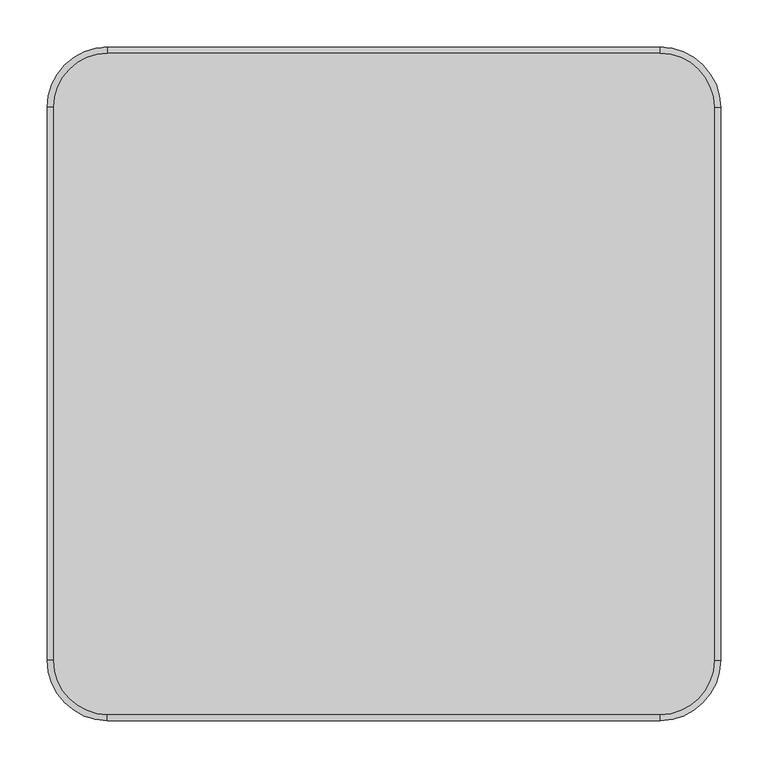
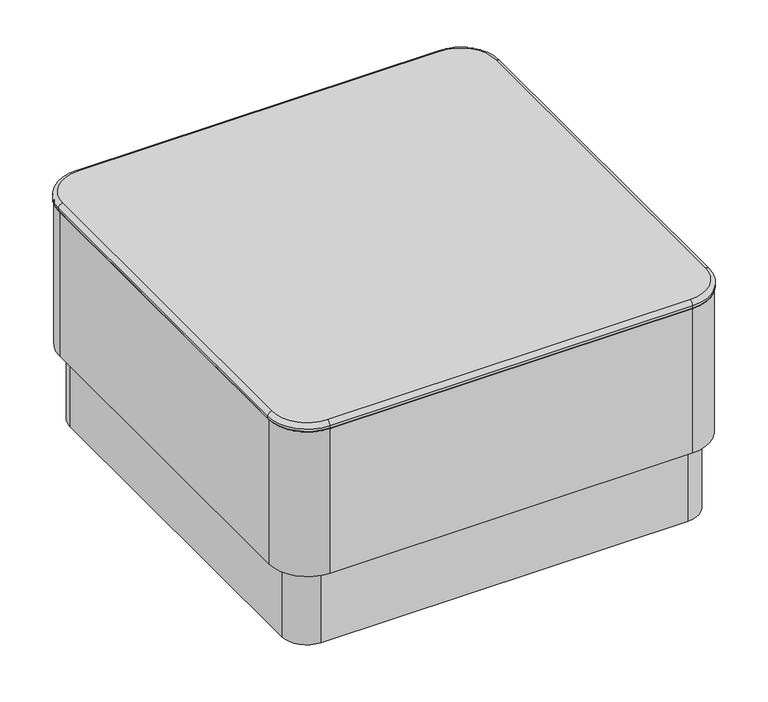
"""IFC4 building model written with IfcOpenShell, lengths in millimetres: furniture geometry, Stance_HC-Rosetta-Square_Table : RM-SQ-BHP."""

from ifc_helpers import new_model, si_unit, point, frame, frame_2d, origin, origin_with_axes, place, context, project, spatial, polyline, circle_curve, ellipse_curve, trimmed, segment, composite_curve, outline, extrude, source, transform, mapped, element, save
from ifc_brep_helpers import plane_surface, cylinder_surface, revolved_surface, advanced_brep


def furniture_0f2db980(model_context):
    return source(origin(), model_context, "Body", "SolidModel", [
        advanced_brep(
        [(711.2, -63.5, 387.35), (647.7, 0.0, 387.35), (647.7, -6.35, 393.7), (704.85, -63.5, 393.7), (711.2, -63.5, 383.2974494), (647.7, 0.0, 383.2974494), (709.6125, -63.5, 381.7099494), (647.7, -1.5875, 381.7099494), (704.85, -647.6999758, 393.7), (711.2, -647.6999758, 387.35), (711.2, -647.6999758, 383.2974494), (709.6125, -647.6999758, 381.7099494), (647.7, -704.8499758, 393.7), (647.7, -711.1999758, 387.35), (647.7, -711.1999758, 383.2974494), (647.7, -709.6124758, 381.7099494), (63.5, -704.8499758, 393.7), (63.5, -711.1999758, 387.35), (63.5, -711.1999758, 383.2974494), (63.5, -709.6124758, 381.7099494), (6.35, -647.6999758, 393.7), (0.0, -647.6999758, 387.35), (0.0, -647.6999758, 383.2974494), (1.5875, -647.6999758, 381.7099494), (6.35, -63.5, 393.7), (0.0, -63.5, 387.35), (0.0, -63.5, 383.2974494), (1.5875, -63.5, 381.7099494), (63.5, -6.35, 393.7), (63.5, 0.0, 387.35), (63.5, 0.0, 383.2974494), (63.5, -1.5875, 381.7099494)],
        [
            (0, 1, circle_curve(frame((647.7, -63.5, 387.35), z_axis=(0.0, 0.0, 1.0), x_axis=(0.0, 1.0, 0.0)), 63.5)),
            (1, 2, circle_curve(frame((647.7, -6.35, 387.35), z_axis=(1.0, 0.0, 0.0), x_axis=(0.0, 1.0, 0.0)), 6.35)),
            (2, 3, circle_curve(frame((647.7, -63.5, 393.7), z_axis=(0.0, 0.0, -1.0), x_axis=(0.0, 1.0, 0.0)), 57.15)),
            (3, 0, circle_curve(frame((704.85, -63.5, 387.35), z_axis=(0.0, 1.0, 0.0), x_axis=(1.0, 0.0, 0.0)), 6.35)),
            (0, 4),
            (4, 5, circle_curve(frame((647.7, -63.5, 383.2974494), z_axis=(0.0, 0.0, 1.0), x_axis=(0.0, 1.0, 0.0)), 63.5)),
            (5, 1),
            (4, 6, circle_curve(frame((709.6125, -63.5, 383.2974494), z_axis=(0.0, 1.0, 0.0), x_axis=(1.0, 0.0, 0.0)), 1.5875)),
            (6, 7, circle_curve(frame((647.7, -63.5, 381.7099494), z_axis=(0.0, 0.0, 1.0), x_axis=(0.0, 1.0, 0.0)), 61.9125)),
            (7, 5, circle_curve(frame((647.7, -1.5875, 383.2974494), z_axis=(1.0, 0.0, 0.0), x_axis=(0.0, 1.0, 0.0)), 1.5875)),
            (3, 8),
            (8, 9, circle_curve(frame((704.85, -647.6999758, 387.35), z_axis=(0.0, 1.0, 0.0), x_axis=(1.0, 0.0, 0.0)), 6.35)),
            (9, 0),
            (9, 10),
            (10, 4),
            (10, 11, circle_curve(frame((709.6125, -647.6999758, 383.2974494), z_axis=(0.0, 1.0, 0.0), x_axis=(1.0, 0.0, 0.0)), 1.5875)),
            (11, 6),
            (8, 12, circle_curve(frame((647.7, -647.6999758, 393.7), z_axis=(0.0, 0.0, -1.0), x_axis=(1.0, 0.0, 0.0)), 57.15)),
            (12, 13, circle_curve(frame((647.7, -704.8499758, 387.35), z_axis=(1.0, 0.0, 0.0), x_axis=(0.0, -1.0, 0.0)), 6.35)),
            (13, 9, circle_curve(frame((647.7, -647.6999758, 387.35), z_axis=(0.0, 0.0, 1.0), x_axis=(1.0, 0.0, 0.0)), 63.5)),
            (13, 14),
            (14, 10, circle_curve(frame((647.7, -647.6999758, 383.2974494), z_axis=(0.0, 0.0, 1.0), x_axis=(1.0, 0.0, 0.0)), 63.5)),
            (14, 15, circle_curve(frame((647.7, -709.6124758, 383.2974494), z_axis=(1.0, 0.0, 0.0), x_axis=(0.0, -1.0, 0.0)), 1.5875)),
            (15, 11, circle_curve(frame((647.7, -647.6999758, 381.7099494), z_axis=(0.0, 0.0, 1.0), x_axis=(1.0, 0.0, 0.0)), 61.9125)),
            (12, 16),
            (16, 17, circle_curve(frame((63.5, -704.8499758, 387.35), z_axis=(1.0, 0.0, 0.0), x_axis=(0.0, -1.0, 0.0)), 6.35)),
            (17, 13),
            (17, 18),
            (18, 14),
            (18, 19, circle_curve(frame((63.5, -709.6124758, 383.2974494), z_axis=(1.0, 0.0, 0.0), x_axis=(0.0, -1.0, 0.0)), 1.5875)),
            (19, 15),
            (16, 20, circle_curve(frame((63.5, -647.6999758, 393.7), z_axis=(0.0, 0.0, -1.0), x_axis=(0.0, -1.0, 0.0)), 57.15)),
            (20, 21, circle_curve(frame((6.35, -647.6999758, 387.35), z_axis=(0.0, -1.0, 0.0), x_axis=(-1.0, 0.0, 0.0)), 6.35)),
            (21, 17, circle_curve(frame((63.5, -647.6999758, 387.35), z_axis=(0.0, 0.0, 1.0), x_axis=(0.0, -1.0, 0.0)), 63.5)),
            (21, 22),
            (22, 18, circle_curve(frame((63.5, -647.6999758, 383.2974494), z_axis=(0.0, 0.0, 1.0), x_axis=(0.0, -1.0, 0.0)), 63.5)),
            (22, 23, circle_curve(frame((1.5875, -647.6999758, 383.2974494), z_axis=(0.0, -1.0, 0.0), x_axis=(-1.0, 0.0, 0.0)), 1.5875)),
            (23, 19, circle_curve(frame((63.5, -647.6999758, 381.7099494), z_axis=(0.0, 0.0, 1.0), x_axis=(0.0, -1.0, 0.0)), 61.9125)),
            (20, 24),
            (24, 25, circle_curve(frame((6.35, -63.5, 387.35), z_axis=(0.0, -1.0, 0.0), x_axis=(-1.0, 0.0, 0.0)), 6.35)),
            (25, 21),
            (25, 26),
            (26, 22),
            (26, 27, circle_curve(frame((1.5875, -63.5, 383.2974494), z_axis=(0.0, -1.0, 0.0), x_axis=(-1.0, 0.0, 0.0)), 1.5875)),
            (27, 23),
            (24, 28, circle_curve(frame((63.5, -63.5, 393.7), z_axis=(0.0, 0.0, -1.0), x_axis=(-1.0, 0.0, 0.0)), 57.15)),
            (28, 29, circle_curve(frame((63.5, -6.35, 387.35), z_axis=(-1.0, 0.0, 0.0), x_axis=(0.0, 1.0, 0.0)), 6.35)),
            (29, 25, circle_curve(frame((63.5, -63.5, 387.35), z_axis=(0.0, 0.0, 1.0), x_axis=(-1.0, 0.0, 0.0)), 63.5)),
            (29, 30),
            (30, 26, circle_curve(frame((63.5, -63.5, 383.2974494), z_axis=(0.0, 0.0, 1.0), x_axis=(-1.0, 0.0, 0.0)), 63.5)),
            (30, 31, circle_curve(frame((63.5, -1.5875, 383.2974494), z_axis=(-1.0, 0.0, 0.0), x_axis=(0.0, 1.0, 0.0)), 1.5875)),
            (31, 27, circle_curve(frame((63.5, -63.5, 381.7099494), z_axis=(0.0, 0.0, 1.0), x_axis=(-1.0, 0.0, 0.0)), 61.9125)),
            (2, 28),
            (1, 29),
            (5, 30),
            (7, 31),
        ],
        [
            revolved_surface(trimmed(ellipse_curve(frame((647.7, -6.35, 387.35), z_axis=(-1.0, 0.0, 0.0), x_axis=(0.0, 1.0, 0.0)), 6.35, 6.35), [point((647.7, -6.35, 393.7))], [point((647.7, 0.0, 387.35))], True, "CARTESIAN"), (647.7, -63.5, 618.9648354), (0.0, 0.0, -1.0)),
            cylinder_surface(frame((647.7, -63.5, 618.9648354), z_axis=(0.0, 0.0, -1.0), x_axis=(0.0, 1.0, 0.0)), 63.5),
            revolved_surface(trimmed(ellipse_curve(frame((647.7, -1.5875, 383.2974494), z_axis=(-1.0, 0.0, 0.0), x_axis=(0.0, 1.0, 0.0)), 1.5875, 1.5875), [point((647.7, 0.0, 383.2974494))], [point((647.7, -1.5875, 381.7099494))], True, "CARTESIAN"), (647.7, -63.5, 618.9648354), (0.0, 0.0, -1.0)),
            cylinder_surface(frame((704.85, -63.5, 387.35), z_axis=(0.0, 1.0, 0.0), x_axis=(1.0, 0.0, 0.0)), 6.35),
            plane_surface(frame((711.2, -63.5, 387.35), z_axis=(1.0, 0.0, 0.0), x_axis=(0.0, -1.0, 0.0))),
            cylinder_surface(frame((709.6125, -63.5, 383.2974494), z_axis=(0.0, 1.0, 0.0), x_axis=(1.0, 0.0, 0.0)), 1.5875),
            revolved_surface(trimmed(ellipse_curve(frame((704.85, -647.6999758, 387.35), z_axis=(0.0, 1.0, 0.0), x_axis=(1.0, 0.0, 0.0)), 6.35, 6.35), [point((704.85, -647.6999758, 393.7))], [point((711.2, -647.6999758, 387.35))], True, "CARTESIAN"), (647.7, -647.6999758, 618.9648354), (0.0, 0.0, -1.0)),
            cylinder_surface(frame((647.7, -647.6999758, 618.9648354), z_axis=(0.0, 0.0, -1.0), x_axis=(1.0, 0.0, 0.0)), 63.5),
            revolved_surface(trimmed(ellipse_curve(frame((709.6125, -647.6999758, 383.2974494), z_axis=(0.0, 1.0, 0.0), x_axis=(1.0, 0.0, 0.0)), 1.5875, 1.5875), [point((711.2, -647.6999758, 383.2974494))], [point((709.6125, -647.6999758, 381.7099494))], True, "CARTESIAN"), (647.7, -647.6999758, 618.9648354), (0.0, 0.0, -1.0)),
            cylinder_surface(frame((647.7, -704.8499758, 387.35), z_axis=(1.0, 0.0, 0.0), x_axis=(0.0, -1.0, 0.0)), 6.35),
            plane_surface(frame((647.7, -711.1999758, 387.35), z_axis=(0.0, -1.0, 0.0), x_axis=(-1.0, 0.0, 0.0))),
            cylinder_surface(frame((647.7, -709.6124758, 383.2974494), z_axis=(1.0, 0.0, 0.0), x_axis=(0.0, -1.0, 0.0)), 1.5875),
            revolved_surface(trimmed(ellipse_curve(frame((63.5, -704.8499758, 387.35), z_axis=(1.0, 0.0, 0.0), x_axis=(0.0, -1.0, 0.0)), 6.35, 6.35), [point((63.5, -704.8499758, 393.7))], [point((63.5, -711.1999758, 387.35))], True, "CARTESIAN"), (63.5, -647.6999758, 618.9648354), (0.0, 0.0, -1.0)),
            cylinder_surface(frame((63.5, -647.6999758, 618.9648354), z_axis=(0.0, 0.0, -1.0), x_axis=(0.0, -1.0, 0.0)), 63.5),
            revolved_surface(trimmed(ellipse_curve(frame((63.5, -709.6124758, 383.2974494), z_axis=(1.0, 0.0, 0.0), x_axis=(0.0, -1.0, 0.0)), 1.5875, 1.5875), [point((63.5, -711.1999758, 383.2974494))], [point((63.5, -709.6124758, 381.7099494))], True, "CARTESIAN"), (63.5, -647.6999758, 618.9648354), (0.0, 0.0, -1.0)),
            cylinder_surface(frame((6.35, -647.6999758, 387.35), z_axis=(0.0, -1.0, 0.0), x_axis=(-1.0, 0.0, 0.0)), 6.35),
            plane_surface(frame((0.0, -647.6999758, 387.35), z_axis=(-1.0, 0.0, 0.0), x_axis=(0.0, 1.0, 0.0))),
            cylinder_surface(frame((1.5875, -647.6999758, 383.2974494), z_axis=(0.0, -1.0, 0.0), x_axis=(-1.0, 0.0, 0.0)), 1.5875),
            revolved_surface(trimmed(ellipse_curve(frame((6.35, -63.5, 387.35), z_axis=(0.0, -1.0, 0.0), x_axis=(-1.0, 0.0, 0.0)), 6.35, 6.35), [point((6.35, -63.5, 393.7))], [point((0.0, -63.5, 387.35))], True, "CARTESIAN"), (63.5, -63.5, 618.9648354), (0.0, 0.0, -1.0)),
            cylinder_surface(frame((63.5, -63.5, 618.9648354), z_axis=(0.0, 0.0, -1.0), x_axis=(-1.0, 0.0, 0.0)), 63.5),
            revolved_surface(trimmed(ellipse_curve(frame((1.5875, -63.5, 383.2974494), z_axis=(0.0, -1.0, 0.0), x_axis=(-1.0, 0.0, 0.0)), 1.5875, 1.5875), [point((0.0, -63.5, 383.2974494))], [point((1.5875, -63.5, 381.7099494))], True, "CARTESIAN"), (63.5, -63.5, 618.9648354), (0.0, 0.0, -1.0)),
            plane_surface(frame((63.5, -50.8, 393.7), z_axis=(0.0, 0.0, 1.0), x_axis=(1.0, 0.0, 0.0))),
            cylinder_surface(frame((63.5, -6.35, 387.35), z_axis=(-1.0, 0.0, 0.0), x_axis=(0.0, 1.0, 0.0)), 6.35),
            plane_surface(frame((63.5, 0.0, 387.35), z_axis=(0.0, 1.0, 0.0), x_axis=(1.0, 0.0, 0.0))),
            cylinder_surface(frame((63.5, -1.5875, 383.2974494), z_axis=(-1.0, 0.0, 0.0), x_axis=(0.0, 1.0, 0.0)), 1.5875),
            plane_surface(frame((63.5, -1.5875, 381.7099494), z_axis=(0.0, 0.0, -1.0), x_axis=(1.0, 0.0, 0.0))),
        ],
        [
            (0, [[1, 2, 3, 4]]),
            (1, [[-1, 5, 6, 7]]),
            (2, [[-6, 8, 9, 10]]),
            (3, [[-4, 11, 12, 13]]),
            (4, [[-5, -13, 14, 15]]),
            (5, [[-8, -15, 16, 17]]),
            (6, [[-12, 18, 19, 20]]),
            (7, [[-14, -20, 21, 22]]),
            (8, [[-16, -22, 23, 24]]),
            (9, [[-19, 25, 26, 27]]),
            (10, [[-21, -27, 28, 29]]),
            (11, [[-23, -29, 30, 31]]),
            (12, [[-26, 32, 33, 34]]),
            (13, [[-28, -34, 35, 36]]),
            (14, [[-30, -36, 37, 38]]),
            (15, [[-33, 39, 40, 41]]),
            (16, [[-35, -41, 42, 43]]),
            (17, [[-37, -43, 44, 45]]),
            (18, [[-40, 46, 47, 48]]),
            (19, [[-42, -48, 49, 50]]),
            (20, [[-44, -50, 51, 52]]),
            (21, [[-3, 53, -46, -39, -32, -25, -18, -11]]),
            (22, [[-2, 54, -47, -53]]),
            (23, [[-7, 55, -49, -54]]),
            (24, [[-10, 56, -51, -55]]),
            (25, [[-9, -17, -24, -31, -38, -45, -52, -56]]),
        ],
    ),
        extrude(outline(composite_curve([segment(trimmed(circle_curve(frame_2d((647.7, -63.5)), 61.9125), [point((647.7, -1.5875))], [point((709.6125, -63.5))], False, "CARTESIAN"), True, "CONTINUOUS"), segment(polyline([(709.6125, -63.5), (709.6125, -647.6999758)]), True, "CONTINUOUS"), segment(trimmed(circle_curve(frame_2d((647.7, -647.6999758)), 61.9125), [point((709.6125, -647.6999758))], [point((647.7, -709.6124758))], False, "CARTESIAN"), True, "CONTINUOUS"), segment(polyline([(647.7, -709.6124758), (63.5, -709.6124758)]), True, "CONTINUOUS"), segment(trimmed(circle_curve(frame_2d((63.5, -647.6999758)), 61.9125), [point((63.5, -709.6124758))], [point((1.5875, -647.6999758))], False, "CARTESIAN"), True, "CONTINUOUS"), segment(polyline([(1.5875, -647.6999758), (1.5875, -63.5)]), True, "CONTINUOUS"), segment(trimmed(circle_curve(frame_2d((63.5, -63.5)), 61.9125), [point((1.5875, -63.5))], [point((63.5, -1.5875))], False, "CARTESIAN"), True, "CONTINUOUS"), segment(polyline([(63.5, -1.5875), (647.7, -1.5875)]), True, "CONTINUOUS")], self_intersect=False)), frame((0.0, 0.0, 134.88162), z_axis=(0.0, 0.0, 1.0), x_axis=(1.0, 0.0, 0.0)), (0.0, 0.0, 1.0), 246.8283294),
        extrude(outline(composite_curve([segment(trimmed(circle_curve(frame_2d((54.0078674, -657.1680567)), 11.90625), [point((54.0078674, -669.0743067))], [point((54.0078674, -645.2618067))], False, "CARTESIAN"), True, "CONTINUOUS"), segment(trimmed(circle_curve(frame_2d((54.0078674, -657.1680567)), 11.90625), [point((54.0078674, -645.2618067))], [point((54.0078674, -669.0743067))], False, "CARTESIAN"), True, "CONTINUOUS")], self_intersect=False)), origin_with_axes(), (0.0, 0.0, 1.0), 6.3627),
        extrude(outline(composite_curve([segment(trimmed(circle_curve(frame_2d((657.1921326, -657.1680567)), 11.90625), [point((657.1921326, -669.0743067))], [point((657.1921326, -645.2618067))], False, "CARTESIAN"), True, "CONTINUOUS"), segment(trimmed(circle_curve(frame_2d((657.1921326, -657.1680567)), 11.90625), [point((657.1921326, -645.2618067))], [point((657.1921326, -669.0743067))], False, "CARTESIAN"), True, "CONTINUOUS")], self_intersect=False)), origin_with_axes(), (0.0, 0.0, 1.0), 6.3627),
        extrude(outline(composite_curve([segment(trimmed(circle_curve(frame_2d((54.0078674, -54.0319433)), 11.90625), [point((54.0078674, -65.9381933))], [point((54.0078674, -42.1256933))], False, "CARTESIAN"), True, "CONTINUOUS"), segment(trimmed(circle_curve(frame_2d((54.0078674, -54.0319433)), 11.90625), [point((54.0078674, -42.1256933))], [point((54.0078674, -65.9381933))], False, "CARTESIAN"), True, "CONTINUOUS")], self_intersect=False)), origin_with_axes(), (0.0, 0.0, 1.0), 6.3627),
        extrude(outline(composite_curve([segment(trimmed(circle_curve(frame_2d((657.1921326, -54.0319433)), 11.90625), [point((657.1921326, -65.9381933))], [point((657.1921326, -42.1256933))], False, "CARTESIAN"), True, "CONTINUOUS"), segment(trimmed(circle_curve(frame_2d((657.1921326, -54.0319433)), 11.90625), [point((657.1921326, -42.1256933))], [point((657.1921326, -65.9381933))], False, "CARTESIAN"), True, "CONTINUOUS")], self_intersect=False)), origin_with_axes(), (0.0, 0.0, 1.0), 6.3627),
        extrude(outline(composite_curve([segment(trimmed(circle_curve(frame_2d((651.2875, -59.9125)), 39.6875), [point((651.2875, -20.225))], [point((690.975, -59.9125))], False, "CARTESIAN"), True, "CONTINUOUS"), segment(polyline([(690.975, -59.9125), (690.975, -651.2875)]), True, "CONTINUOUS"), segment(trimmed(circle_curve(frame_2d((651.2875, -651.2875)), 39.6875), [point((690.975, -651.2875))], [point((651.2875, -690.975))], False, "CARTESIAN"), True, "CONTINUOUS"), segment(polyline([(651.2875, -690.975), (59.9125, -690.975)]), True, "CONTINUOUS"), segment(trimmed(circle_curve(frame_2d((59.9125, -651.2875)), 39.6875), [point((59.9125, -690.975))], [point((20.225, -651.2875))], False, "CARTESIAN"), True, "CONTINUOUS"), segment(polyline([(20.225, -651.2875), (20.225, -59.9125)]), True, "CONTINUOUS"), segment(trimmed(circle_curve(frame_2d((59.9125, -59.9125)), 39.6875), [point((20.225, -59.9125))], [point((59.9125, -20.225))], False, "CARTESIAN"), True, "CONTINUOUS"), segment(polyline([(59.9125, -20.225), (651.2875, -20.225)]), True, "CONTINUOUS")], self_intersect=False)), frame((0.0, 0.0, 6.3627), z_axis=(0.0, 0.0, 1.0), x_axis=(1.0, 0.0, 0.0)), (0.0, 0.0, 1.0), 128.51892),
    ])


if __name__ == "__main__":
    model = new_model("IFC4")
    model_context = context("Model", 3, world=origin())
    ifc_project = project(units=[si_unit("LENGTHUNIT", "METRE", prefix="MILLI")], contexts=[model_context])
    site = spatial("IfcSite", under=ifc_project)
    building = spatial("IfcBuilding", under=site)
    placement = place(None, origin())
    furniture_shape = furniture_0f2db980(model_context)
    element("IfcFurniture", 1, ObjectType="Stance_HC-Rosetta-Square_Table : RM-SQ-BHP", at=placement, inside=building, context=model_context, shape_type="MappedRepresentation", body=[
        mapped(furniture_shape, transform((0.0, 0.0, 0.0), x_axis=(1.0, 0.0, 0.0), y_axis=(0.0, 1.0, 0.0), z_axis=(0.0, 0.0, 1.0))),
    ])
    save(model, "model.ifc")
